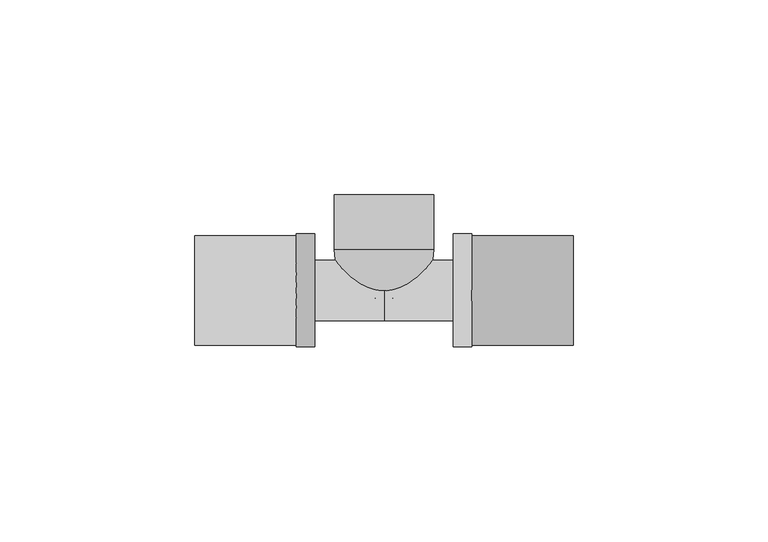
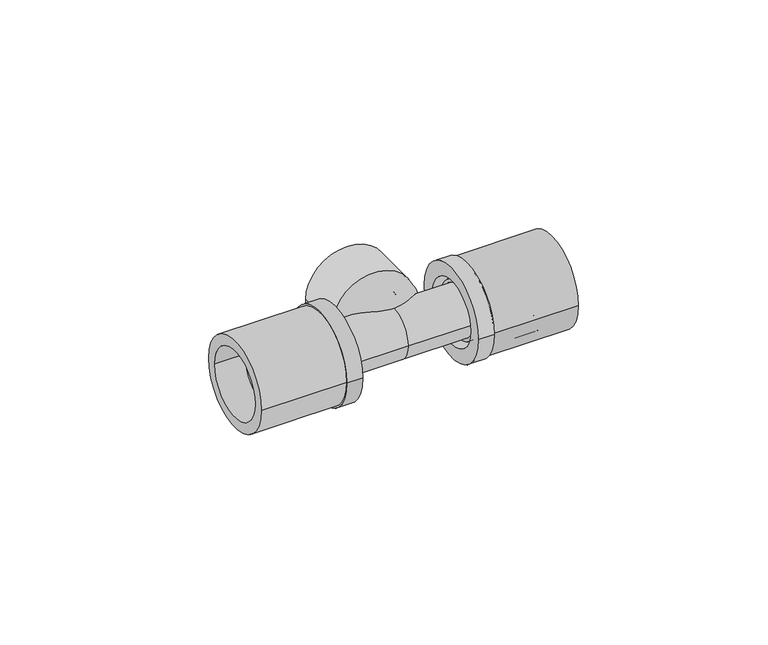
"""IFC4 building model written with IfcOpenShell, lengths in millimetres: pipe fitting geometry, FASTLOC_T-piece internal thread EX+ : FSL T thread EX+ AT."""

from ifc_helpers import new_model, si_unit, point, frame, origin, origin_2d, place, context, project, spatial, polyline, circle_curve, ellipse_curve, trimmed, segment, composite_curve, outline, extrude, source, transform, mapped, element, save
from ifc_brep_helpers import plane_surface, cylinder_surface, revolved_surface, advanced_brep


def pipe_fitting_e3b44c6b(model_context):
    return source(origin(), model_context, "Body", "SolidModel", [
        extrude(outline(composite_curve([segment(trimmed(circle_curve(origin_2d(), 14.0), [point((-14.0, 0.0))], [point((14.0, 0.0))], False, "CARTESIAN"), True, "CONTINUOUS"), segment(trimmed(circle_curve(origin_2d(), 14.0), [point((14.0, 0.0))], [point((-14.0, 0.0))], False, "CARTESIAN"), True, "CONTINUOUS")], self_intersect=False), holes=[composite_curve([segment(trimmed(circle_curve(origin_2d(), 10.7), [point((-10.7, 0.0))], [point((10.7, 0.0))], True, "CARTESIAN"), True, "CONTINUOUS"), segment(trimmed(circle_curve(origin_2d(), 10.7), [point((10.7, 0.0))], [point((-10.7, 0.0))], True, "CARTESIAN"), True, "CONTINUOUS")], self_intersect=False)]), frame((22.5, 0.0, 0.0), z_axis=(1.0, 0.0, 0.0), x_axis=(0.0, 1.0, 0.0)), (0.0, 0.0, 1.0), 26.0),
        advanced_brep(
        [(22.5, 14.5, 0.0), (22.5, -14.5, 0.0), (17.8, -14.5, 0.0), (17.8, 14.5, 0.0), (39.5, 11.85, 0.0), (39.5, -11.85, 0.0), (22.5, -11.85, 0.0), (22.5, 11.85, 0.0), (17.8, 10.15, 0.0), (17.8, -10.15, 0.0), (39.5, -10.15, 0.0), (39.5, 10.15, 0.0)],
        [
            (0, 1, circle_curve(frame((22.5, 0.0, 0.0), z_axis=(-1.0, 0.0, 0.0), x_axis=(0.0, -1.0, 0.0)), 14.5)),
            (1, 2),
            (2, 3, circle_curve(frame((17.8, 0.0, 0.0), z_axis=(1.0, 0.0, 0.0), x_axis=(0.0, -1.0, 0.0)), 14.5)),
            (3, 0),
            (4, 5, circle_curve(frame((39.5, 0.0, 0.0), z_axis=(-1.0, 0.0, 0.0), x_axis=(0.0, -1.0, 0.0)), 11.85)),
            (5, 6),
            (6, 7, circle_curve(frame((22.5, 0.0, 0.0), z_axis=(1.0, 0.0, 0.0), x_axis=(0.0, -1.0, 0.0)), 11.85)),
            (7, 4),
            (8, 9, circle_curve(frame((17.8, 0.0, 0.0), z_axis=(-1.0, 0.0, 0.0), x_axis=(0.0, -1.0, 0.0)), 10.15)),
            (9, 10),
            (10, 11, circle_curve(frame((39.5, 0.0, 0.0), z_axis=(1.0, 0.0, 0.0), x_axis=(0.0, -1.0, 0.0)), 10.15)),
            (11, 8),
            (1, 0, circle_curve(frame((22.5, 0.0, 0.0), z_axis=(-1.0, 0.0, 0.0), x_axis=(0.0, 1.0, 0.0)), 14.5)),
            (3, 2, circle_curve(frame((17.8, 0.0, 0.0), z_axis=(1.0, 0.0, 0.0), x_axis=(0.0, 1.0, 0.0)), 14.5)),
            (6, 7, circle_curve(frame((22.5, 0.0, 0.0), z_axis=(-1.0, 0.0, 0.0), x_axis=(0.0, 1.0, 0.0)), 11.85)),
            (5, 4, circle_curve(frame((39.5, 0.0, 0.0), z_axis=(-1.0, 0.0, 0.0), x_axis=(0.0, 1.0, 0.0)), 11.85)),
            (10, 11, circle_curve(frame((39.5, 0.0, 0.0), z_axis=(-1.0, 0.0, 0.0), x_axis=(0.0, 1.0, 0.0)), 10.15)),
            (9, 8, circle_curve(frame((17.8, 0.0, 0.0), z_axis=(-1.0, 0.0, 0.0), x_axis=(0.0, 1.0, 0.0)), 10.15)),
        ],
        [
            cylinder_surface(frame((17.8, 0.0, 0.0), z_axis=(1.0, 0.0, 0.0), x_axis=(0.0, -1.0, 0.0)), 14.5),
            cylinder_surface(frame((17.8, 0.0, 0.0), z_axis=(1.0, 0.0, 0.0), x_axis=(0.0, -1.0, 0.0)), 11.85),
            revolved_surface(polyline([(39.5, -10.15, 0.0), (17.8, -10.15, 0.0)]), (17.8, 0.0, 0.0), (1.0, 0.0, 0.0)),
            cylinder_surface(frame((17.8, 0.0, 0.0), z_axis=(1.0, 0.0, 0.0), x_axis=(0.0, 1.0, 0.0)), 14.5),
            plane_surface(frame((22.5, 0.0, 0.0), z_axis=(1.0, 0.0, 0.0), x_axis=(0.0, 1.0, 0.0))),
            cylinder_surface(frame((17.8, 0.0, 0.0), z_axis=(1.0, 0.0, 0.0), x_axis=(0.0, 1.0, 0.0)), 11.85),
            plane_surface(frame((39.5, 0.0, 0.0), z_axis=(1.0, 0.0, 0.0), x_axis=(0.0, 1.0, 0.0))),
            revolved_surface(polyline([(39.5, 10.15, 0.0), (17.8, 10.15, 0.0)]), (17.8, 0.0, 0.0), (1.0, 0.0, 0.0)),
            plane_surface(frame((17.8, 0.0, 0.0), z_axis=(-1.0, 0.0, 0.0), x_axis=(0.0, 1.0, 0.0))),
        ],
        [
            (0, [[1, 2, 3, 4]]),
            (1, [[5, 6, 7, 8]]),
            (2, [[9, 10, 11, 12]]),
            (3, [[13, -4, 14, -2]]),
            (4, [[-13, -1], [15, -7]]),
            (5, [[16, -8, -15, -6]]),
            (6, [[-16, -5], [17, -11]]),
            (7, [[18, -12, -17, -10]]),
            (8, [[-14, -3], [-18, -9]]),
        ],
    ),
        extrude(outline(composite_curve([segment(trimmed(circle_curve(origin_2d(), 14.0), [point((14.0, 0.0))], [point((-14.0, 0.0))], False, "CARTESIAN"), True, "CONTINUOUS"), segment(trimmed(circle_curve(origin_2d(), 14.0), [point((-14.0, 0.0))], [point((14.0, 0.0))], False, "CARTESIAN"), True, "CONTINUOUS")], self_intersect=False), holes=[composite_curve([segment(trimmed(circle_curve(origin_2d(), 10.7), [point((10.7, 0.0))], [point((-10.7, 0.0))], True, "CARTESIAN"), True, "CONTINUOUS"), segment(trimmed(circle_curve(origin_2d(), 10.7), [point((-10.7, 0.0))], [point((10.7, 0.0))], True, "CARTESIAN"), True, "CONTINUOUS")], self_intersect=False)]), frame((-48.5, 0.0, 0.0), z_axis=(1.0, 0.0, 0.0), x_axis=(0.0, 1.0, 0.0)), (0.0, 0.0, 1.0), 26.0),
        advanced_brep(
        [(-22.5, -14.5, 0.0), (-22.5, 14.5, 0.0), (-17.8, 14.5, 0.0), (-17.8, -14.5, 0.0), (-39.5, -11.85, 0.0), (-39.5, 11.85, 0.0), (-22.5, 11.85, 0.0), (-22.5, -11.85, 0.0), (-17.8, -10.15, 0.0), (-17.8, 10.15, 0.0), (-39.5, 10.15, 0.0), (-39.5, -10.15, 0.0)],
        [
            (0, 1, circle_curve(frame((-22.5, 0.0, 0.0), z_axis=(1.0, 0.0, 0.0), x_axis=(0.0, 1.0, 0.0)), 14.5)),
            (1, 2),
            (2, 3, circle_curve(frame((-17.8, 0.0, 0.0), z_axis=(-1.0, 0.0, 0.0), x_axis=(0.0, 1.0, 0.0)), 14.5)),
            (3, 0),
            (4, 5, circle_curve(frame((-39.5, 0.0, 0.0), z_axis=(1.0, 0.0, 0.0), x_axis=(0.0, 1.0, 0.0)), 11.85)),
            (5, 6),
            (6, 7, circle_curve(frame((-22.5, 0.0, 0.0), z_axis=(-1.0, 0.0, 0.0), x_axis=(0.0, 1.0, 0.0)), 11.85)),
            (7, 4),
            (8, 9, circle_curve(frame((-17.8, 0.0, 0.0), z_axis=(1.0, 0.0, 0.0), x_axis=(0.0, 1.0, 0.0)), 10.15)),
            (9, 10),
            (10, 11, circle_curve(frame((-39.5, 0.0, 0.0), z_axis=(-1.0, 0.0, 0.0), x_axis=(0.0, 1.0, 0.0)), 10.15)),
            (11, 8),
            (1, 0, circle_curve(frame((-22.5, 0.0, 0.0), z_axis=(1.0, 0.0, 0.0), x_axis=(0.0, -1.0, 0.0)), 14.5)),
            (3, 2, circle_curve(frame((-17.8, 0.0, 0.0), z_axis=(-1.0, 0.0, 0.0), x_axis=(0.0, -1.0, 0.0)), 14.5)),
            (6, 7, circle_curve(frame((-22.5, 0.0, 0.0), z_axis=(1.0, 0.0, 0.0), x_axis=(0.0, -1.0, 0.0)), 11.85)),
            (5, 4, circle_curve(frame((-39.5, 0.0, 0.0), z_axis=(1.0, 0.0, 0.0), x_axis=(0.0, -1.0, 0.0)), 11.85)),
            (10, 11, circle_curve(frame((-39.5, 0.0, 0.0), z_axis=(1.0, 0.0, 0.0), x_axis=(0.0, -1.0, 0.0)), 10.15)),
            (9, 8, circle_curve(frame((-17.8, 0.0, 0.0), z_axis=(1.0, 0.0, 0.0), x_axis=(0.0, -1.0, 0.0)), 10.15)),
        ],
        [
            cylinder_surface(frame((-17.8, 0.0, 0.0), z_axis=(-1.0, 0.0, 0.0), x_axis=(0.0, 1.0, 0.0)), 14.5),
            cylinder_surface(frame((-17.8, 0.0, 0.0), z_axis=(-1.0, 0.0, 0.0), x_axis=(0.0, 1.0, 0.0)), 11.85),
            revolved_surface(polyline([(-39.5, 10.15, 0.0), (-17.8, 10.15, 0.0)]), (-17.8, 0.0, 0.0), (-1.0, 0.0, 0.0)),
            cylinder_surface(frame((-17.8, 0.0, 0.0), z_axis=(-1.0, 0.0, 0.0), x_axis=(0.0, -1.0, 0.0)), 14.5),
            plane_surface(frame((-22.5, 0.0, 0.0), z_axis=(-1.0, 0.0, 0.0), x_axis=(0.0, -1.0, 0.0))),
            cylinder_surface(frame((-17.8, 0.0, 0.0), z_axis=(-1.0, 0.0, 0.0), x_axis=(0.0, -1.0, 0.0)), 11.85),
            plane_surface(frame((-39.5, 0.0, 0.0), z_axis=(-1.0, 0.0, 0.0), x_axis=(0.0, -1.0, 0.0))),
            revolved_surface(polyline([(-39.5, -10.15, 0.0), (-17.8, -10.15, 0.0)]), (-17.8, 0.0, 0.0), (-1.0, 0.0, 0.0)),
            plane_surface(frame((-17.8, 0.0, 0.0), z_axis=(1.0, 0.0, 0.0), x_axis=(0.0, -1.0, 0.0))),
        ],
        [
            (0, [[1, 2, 3, 4]]),
            (1, [[5, 6, 7, 8]]),
            (2, [[9, 10, 11, 12]]),
            (3, [[13, -4, 14, -2]]),
            (4, [[-13, -1], [15, -7]]),
            (5, [[16, -8, -15, -6]]),
            (6, [[-16, -5], [17, -11]]),
            (7, [[18, -12, -17, -10]]),
            (8, [[-14, -3], [-18, -9]]),
        ],
    ),
        advanced_brep(
        [(0.5, -2.3401923, 0.0), (-0.5, -2.3401923, 0.0), (-12.75, 10.4, 0.0), (12.75, 10.4, 0.0), (0.5, 2.9166852, 0.0), (-0.5, 2.9166852, 0.0), (7.5, 10.4, 0.0), (-7.5, 10.4, 0.0), (7.5, 24.5, 0.0), (-7.5, 24.5, 0.0), (-12.75, 24.5, 0.0), (12.75, 24.5, 0.0)],
        [
            (0, 1, circle_curve(frame((0.0, -2.3401923, 0.0), z_axis=(0.0, 1.0, 0.0), x_axis=(-1.0, 0.0, 0.0)), 0.5)),
            (1, 2, circle_curve(frame((0.0, 10.4, 0.0), z_axis=(0.0, 0.0, -1.0), x_axis=(0.0, 1.0, 0.0)), 12.75)),
            (2, 3, circle_curve(frame((0.0, 10.4, 0.0), z_axis=(0.0, -1.0, 0.0), x_axis=(-1.0, 0.0, 0.0)), 12.75)),
            (3, 0, circle_curve(frame((0.0, 10.4, 0.0), z_axis=(0.0, 0.0, -1.0), x_axis=(0.0, 1.0, 0.0)), 12.75)),
            (4, 5, circle_curve(frame((0.0, 2.9166852, 0.0), z_axis=(0.0, 1.0, 0.0), x_axis=(-1.0, 0.0, 0.0)), 0.5)),
            (5, 1),
            (0, 4),
            (6, 7, circle_curve(frame((0.0, 10.4, 0.0), z_axis=(0.0, 1.0, 0.0), x_axis=(-1.0, 0.0, 0.0)), 7.5)),
            (7, 5, circle_curve(frame((0.0, 10.4, 0.0), z_axis=(0.0, 0.0, 1.0), x_axis=(0.0, 1.0, 0.0)), 7.5)),
            (4, 6, circle_curve(frame((0.0, 10.4, 0.0), z_axis=(0.0, 0.0, 1.0), x_axis=(0.0, 1.0, 0.0)), 7.5)),
            (8, 9, circle_curve(frame((0.0, 24.5, 0.0), z_axis=(0.0, 1.0, 0.0), x_axis=(-1.0, 0.0, 0.0)), 7.5)),
            (9, 7),
            (6, 8),
            (2, 10),
            (10, 11, circle_curve(frame((0.0, 24.5, 0.0), z_axis=(0.0, -1.0, 0.0), x_axis=(-1.0, 0.0, 0.0)), 12.75)),
            (11, 3),
            (1, 0, circle_curve(frame((0.0, -2.3401923, 0.0), z_axis=(0.0, 1.0, 0.0), x_axis=(1.0, 0.0, 0.0)), 0.5)),
            (3, 2, circle_curve(frame((0.0, 10.4, 0.0), z_axis=(0.0, -1.0, 0.0), x_axis=(1.0, 0.0, 0.0)), 12.75)),
            (5, 4, circle_curve(frame((0.0, 2.9166852, 0.0), z_axis=(0.0, 1.0, 0.0), x_axis=(1.0, 0.0, 0.0)), 0.5)),
            (7, 6, circle_curve(frame((0.0, 10.4, 0.0), z_axis=(0.0, 1.0, 0.0), x_axis=(1.0, 0.0, 0.0)), 7.5)),
            (9, 8, circle_curve(frame((0.0, 24.5, 0.0), z_axis=(0.0, 1.0, 0.0), x_axis=(1.0, 0.0, 0.0)), 7.5)),
            (10, 11, circle_curve(frame((0.0, 24.5, 0.0), z_axis=(0.0, 1.0, 0.0), x_axis=(1.0, 0.0, 0.0)), 12.75)),
        ],
        [
            revolved_surface(trimmed(ellipse_curve(frame((0.0, 10.4, 0.0), z_axis=(0.0, 0.0, 1.0), x_axis=(0.0, 1.0, 0.0)), 12.75, 12.75), [point((-12.75, 10.4, 0.0))], [point((-0.5, -2.3401923, 0.0))], True, "CARTESIAN"), (0.0, 0.0, 0.0), (0.0, -1.0, 0.0)),
            revolved_surface(polyline([(-0.5, -2.3401923, 0.0), (-0.5, 2.9166852, 0.0)]), (0.0, 0.0, 0.0), (0.0, -1.0, 0.0)),
            revolved_surface(trimmed(ellipse_curve(frame((0.0, 10.4, 0.0), z_axis=(0.0, 0.0, -1.0), x_axis=(0.0, 1.0, 0.0)), 7.5, 7.5), [point((-0.5, 2.9166852, 0.0))], [point((-7.5, 10.4, 0.0))], True, "CARTESIAN"), (0.0, 0.0, 0.0), (0.0, -1.0, 0.0)),
            revolved_surface(polyline([(-7.5, 10.4, 0.0), (-7.5, 24.5, 0.0)]), (0.0, 0.0, 0.0), (0.0, -1.0, 0.0)),
            cylinder_surface(frame((0.0, 0.0, 0.0), z_axis=(0.0, -1.0, 0.0), x_axis=(-1.0, 0.0, 0.0)), 12.75),
            revolved_surface(trimmed(ellipse_curve(frame((0.0, 10.4, 0.0), z_axis=(0.0, 0.0, -1.0), x_axis=(0.0, 1.0, 0.0)), 12.75, 12.75), [point((12.75, 10.4, 0.0))], [point((0.5, -2.3401923, 0.0))], True, "CARTESIAN"), (0.0, 0.0, 0.0), (0.0, -1.0, 0.0)),
            revolved_surface(polyline([(0.5, -2.3401923, 0.0), (0.5, 2.9166852, 0.0)]), (0.0, 0.0, 0.0), (0.0, -1.0, 0.0)),
            revolved_surface(trimmed(ellipse_curve(frame((0.0, 10.4, 0.0), z_axis=(0.0, 0.0, 1.0), x_axis=(0.0, 1.0, 0.0)), 7.5, 7.5), [point((0.5, 2.9166852, 0.0))], [point((7.5, 10.4, 0.0))], True, "CARTESIAN"), (0.0, 0.0, 0.0), (0.0, -1.0, 0.0)),
            revolved_surface(polyline([(7.5, 10.4, 0.0), (7.5, 24.5, 0.0)]), (0.0, 0.0, 0.0), (0.0, -1.0, 0.0)),
            plane_surface(frame((0.0, 24.5, 0.0), z_axis=(0.0, 1.0, 0.0), x_axis=(1.0, 0.0, 0.0))),
            cylinder_surface(frame((0.0, 0.0, 0.0), z_axis=(0.0, -1.0, 0.0), x_axis=(1.0, 0.0, 0.0)), 12.75),
        ],
        [
            (0, [[1, 2, 3, 4]]),
            (1, [[5, 6, -1, 7]]),
            (2, [[8, 9, -5, 10]]),
            (3, [[11, 12, -8, 13]]),
            (4, [[-3, 14, 15, 16]]),
            (5, [[17, -4, 18, -2]]),
            (6, [[19, -7, -17, -6]]),
            (7, [[20, -10, -19, -9]]),
            (8, [[21, -13, -20, -12]]),
            (9, [[22, -15], [-21, -11]]),
            (10, [[-18, -16, -22, -14]]),
        ],
    ),
        advanced_brep(
        [(22.5, 8.8, 0.0), (22.5, -8.8, 0.0), (19.8, -8.8, 0.0), (19.8, 8.8, 0.0), (39.9, 7.75, 0.0), (39.9, -7.75, 0.0), (22.5, -7.75, 0.0), (22.5, 7.75, 0.0), (-39.9, 5.75, 0.0), (-39.9, -5.75, 0.0), (39.9, -5.75, 0.0), (39.9, 5.75, 0.0), (-22.5, 7.75, 0.0), (-22.5, -7.75, 0.0), (-39.9, -7.75, 0.0), (-39.9, 7.75, 0.0), (-19.8, 8.8, 0.0), (-19.8, -8.8, 0.0), (-22.5, -8.8, 0.0), (-22.5, 8.8, 0.0), (0.0, 7.75, 0.0), (0.0, -7.75, 0.0), (-19.8, -7.75, 0.0), (-19.8, 7.75, 0.0), (19.8, 7.75, 0.0), (19.8, -7.75, 0.0)],
        [
            (0, 1, circle_curve(frame((22.5, 0.0, 0.0), z_axis=(-1.0, 0.0, 0.0), x_axis=(0.0, -1.0, 0.0)), 8.8)),
            (1, 2),
            (2, 3, circle_curve(frame((19.8, 0.0, 0.0), z_axis=(1.0, 0.0, 0.0), x_axis=(0.0, -1.0, 0.0)), 8.8)),
            (3, 0),
            (4, 5, circle_curve(frame((39.9, 0.0, 0.0), z_axis=(-1.0, 0.0, 0.0), x_axis=(0.0, -1.0, 0.0)), 7.75)),
            (5, 6),
            (6, 7, circle_curve(frame((22.5, 0.0, 0.0), z_axis=(1.0, 0.0, 0.0), x_axis=(0.0, -1.0, 0.0)), 7.75)),
            (7, 4),
            (8, 9, circle_curve(frame((-39.9, 0.0, 0.0), z_axis=(-1.0, 0.0, 0.0), x_axis=(0.0, -1.0, 0.0)), 5.75)),
            (9, 10),
            (10, 11, circle_curve(frame((39.9, 0.0, 0.0), z_axis=(1.0, 0.0, 0.0), x_axis=(0.0, -1.0, 0.0)), 5.75)),
            (11, 8),
            (12, 13, circle_curve(frame((-22.5, 0.0, 0.0), z_axis=(-1.0, 0.0, 0.0), x_axis=(0.0, -1.0, 0.0)), 7.75)),
            (13, 14),
            (14, 15, circle_curve(frame((-39.9, 0.0, 0.0), z_axis=(1.0, 0.0, 0.0), x_axis=(0.0, -1.0, 0.0)), 7.75)),
            (15, 12),
            (16, 17, circle_curve(frame((-19.8, 0.0, 0.0), z_axis=(-1.0, 0.0, 0.0), x_axis=(0.0, -1.0, 0.0)), 8.8)),
            (17, 18),
            (18, 19, circle_curve(frame((-22.5, 0.0, 0.0), z_axis=(1.0, 0.0, 0.0), x_axis=(0.0, -1.0, 0.0)), 8.8)),
            (19, 16),
            (20, 21, circle_curve(frame((0.0, 0.0, 0.0), z_axis=(-1.0, 0.0, 0.0), x_axis=(0.0, -1.0, 0.0)), 7.75)),
            (21, 22),
            (22, 23, circle_curve(frame((-19.8, 0.0, 0.0), z_axis=(1.0, 0.0, 0.0), x_axis=(0.0, -1.0, 0.0)), 7.75)),
            (23, 20),
            (24, 25, circle_curve(frame((19.8, 0.0, 0.0), z_axis=(-1.0, 0.0, 0.0), x_axis=(0.0, -1.0, 0.0)), 7.75)),
            (25, 21),
            (20, 24),
            (1, 0, circle_curve(frame((22.5, 0.0, 0.0), z_axis=(-1.0, 0.0, 0.0), x_axis=(0.0, 1.0, 0.0)), 8.8)),
            (3, 2, circle_curve(frame((19.8, 0.0, 0.0), z_axis=(1.0, 0.0, 0.0), x_axis=(0.0, 1.0, 0.0)), 8.8)),
            (6, 7, circle_curve(frame((22.5, 0.0, 0.0), z_axis=(-1.0, 0.0, 0.0), x_axis=(0.0, 1.0, 0.0)), 7.75)),
            (5, 4, circle_curve(frame((39.9, 0.0, 0.0), z_axis=(-1.0, 0.0, 0.0), x_axis=(0.0, 1.0, 0.0)), 7.75)),
            (10, 11, circle_curve(frame((39.9, 0.0, 0.0), z_axis=(-1.0, 0.0, 0.0), x_axis=(0.0, 1.0, 0.0)), 5.75)),
            (9, 8, circle_curve(frame((-39.9, 0.0, 0.0), z_axis=(-1.0, 0.0, 0.0), x_axis=(0.0, 1.0, 0.0)), 5.75)),
            (14, 15, circle_curve(frame((-39.9, 0.0, 0.0), z_axis=(-1.0, 0.0, 0.0), x_axis=(0.0, 1.0, 0.0)), 7.75)),
            (13, 12, circle_curve(frame((-22.5, 0.0, 0.0), z_axis=(-1.0, 0.0, 0.0), x_axis=(0.0, 1.0, 0.0)), 7.75)),
            (18, 19, circle_curve(frame((-22.5, 0.0, 0.0), z_axis=(-1.0, 0.0, 0.0), x_axis=(0.0, 1.0, 0.0)), 8.8)),
            (17, 16, circle_curve(frame((-19.8, 0.0, 0.0), z_axis=(-1.0, 0.0, 0.0), x_axis=(0.0, 1.0, 0.0)), 8.8)),
            (22, 23, circle_curve(frame((-19.8, 0.0, 0.0), z_axis=(-1.0, 0.0, 0.0), x_axis=(0.0, 1.0, 0.0)), 7.75)),
            (21, 20, circle_curve(frame((0.0, 0.0, 0.0), z_axis=(-1.0, 0.0, 0.0), x_axis=(0.0, 1.0, 0.0)), 7.75)),
            (25, 24, circle_curve(frame((19.8, 0.0, 0.0), z_axis=(-1.0, 0.0, 0.0), x_axis=(0.0, 1.0, 0.0)), 7.75)),
        ],
        [
            cylinder_surface(frame((0.0, 0.0, 0.0), z_axis=(1.0, 0.0, 0.0), x_axis=(0.0, -1.0, 0.0)), 8.8),
            cylinder_surface(frame((0.0, 0.0, 0.0), z_axis=(1.0, 0.0, 0.0), x_axis=(0.0, -1.0, 0.0)), 7.75),
            revolved_surface(polyline([(39.9, -5.75, 0.0), (-39.9, -5.75, 0.0)]), (0.0, 0.0, 0.0), (1.0, 0.0, 0.0)),
            cylinder_surface(frame((0.0, 0.0, 0.0), z_axis=(1.0, 0.0, 0.0), x_axis=(0.0, 1.0, 0.0)), 8.8),
            plane_surface(frame((22.5, 0.0, 0.0), z_axis=(1.0, 0.0, 0.0), x_axis=(0.0, 1.0, 0.0))),
            cylinder_surface(frame((0.0, 0.0, 0.0), z_axis=(1.0, 0.0, 0.0), x_axis=(0.0, 1.0, 0.0)), 7.75),
            plane_surface(frame((39.9, 0.0, 0.0), z_axis=(1.0, 0.0, 0.0), x_axis=(0.0, 1.0, 0.0))),
            revolved_surface(polyline([(39.9, 5.75, 0.0), (-39.9, 5.75, 0.0)]), (0.0, 0.0, 0.0), (1.0, 0.0, 0.0)),
            plane_surface(frame((-39.9, 0.0, 0.0), z_axis=(-1.0, 0.0, 0.0), x_axis=(0.0, 1.0, 0.0))),
            plane_surface(frame((-22.5, 0.0, 0.0), z_axis=(-1.0, 0.0, 0.0), x_axis=(0.0, 1.0, 0.0))),
            plane_surface(frame((-19.8, 0.0, 0.0), z_axis=(1.0, 0.0, 0.0), x_axis=(0.0, 1.0, 0.0))),
            plane_surface(frame((19.8, 0.0, 0.0), z_axis=(-1.0, 0.0, 0.0), x_axis=(0.0, 1.0, 0.0))),
        ],
        [
            (0, [[1, 2, 3, 4]]),
            (1, [[5, 6, 7, 8]]),
            (2, [[9, 10, 11, 12]]),
            (1, [[13, 14, 15, 16]]),
            (0, [[17, 18, 19, 20]]),
            (1, [[21, 22, 23, 24]]),
            (1, [[25, 26, -21, 27]]),
            (3, [[28, -4, 29, -2]]),
            (4, [[-28, -1], [30, -7]]),
            (5, [[31, -8, -30, -6]]),
            (6, [[-31, -5], [32, -11]]),
            (7, [[33, -12, -32, -10]]),
            (8, [[34, -15], [-33, -9]]),
            (5, [[35, -16, -34, -14]]),
            (9, [[36, -19], [-35, -13]]),
            (3, [[37, -20, -36, -18]]),
            (10, [[-37, -17], [38, -23]]),
            (5, [[39, -24, -38, -22]]),
            (5, [[40, -27, -39, -26]]),
            (11, [[-29, -3], [-40, -25]]),
        ],
    ),
    ])


if __name__ == "__main__":
    model = new_model("IFC4")
    model_context = context("Model", 3, world=origin())
    ifc_project = project(units=[si_unit("LENGTHUNIT", "METRE", prefix="MILLI")], contexts=[model_context])
    site = spatial("IfcSite", under=ifc_project)
    building = spatial("IfcBuilding", under=site)
    placement = place(None, origin())
    pipe_fitting_shape = pipe_fitting_e3b44c6b(model_context)
    element("IfcPipeFitting", 1, ObjectType="FASTLOC_T-piece internal thread EX+ : FSL T thread EX+ AT", at=placement, inside=building, context=model_context, shape_type="MappedRepresentation", body=[
        mapped(pipe_fitting_shape, transform((0.0, 0.0, 0.0), x_axis=(1.0, 0.0, 0.0), y_axis=(0.0, 1.0, 0.0), z_axis=(0.0, 0.0, 1.0))),
    ])
    save(model, "model.ifc")
